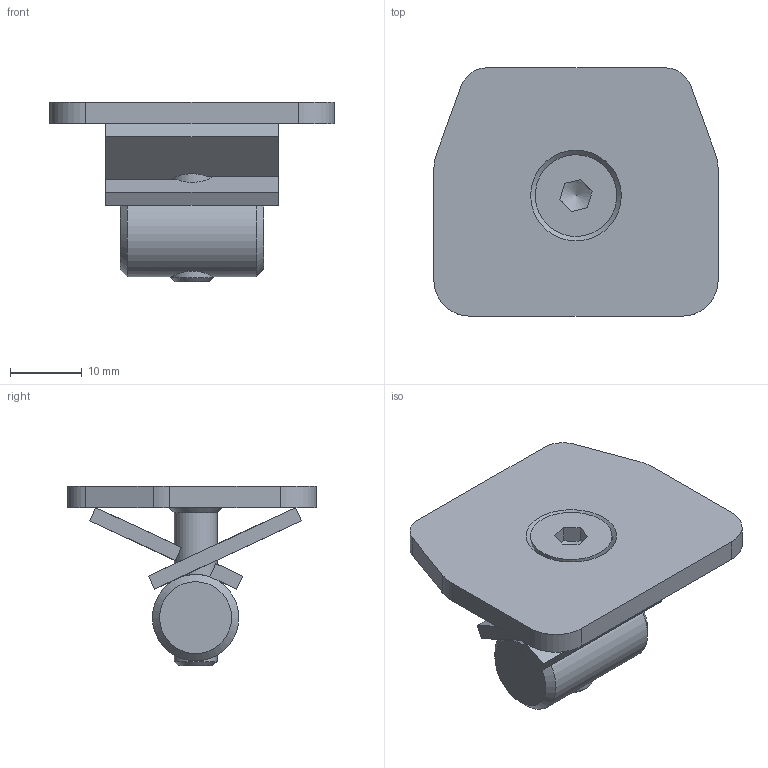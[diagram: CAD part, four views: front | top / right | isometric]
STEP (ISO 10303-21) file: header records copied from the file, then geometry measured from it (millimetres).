
FILE_DESCRIPTION(/* description */ ('Brennteil'),/* implementation_level */ '2;1');
FILE_NAME(/* name */ 'Q:\sge-ma\Produktmanagement-STB\STB\Workspace\TraceParts\Laufrohrabschluss\010337051.stp',/* time_stamp */ '2018-03-05T08:26:12+01:00',/* author */ ('avschreier'),/* organization */ (''),/* preprocessor_version */ 'ST-DEVELOPER v16.1',/* originating_system */ 'Autodesk Inventor 2016',/* authorisation */ '');
FILE_SCHEMA (('CONFIG_CONTROL_DESIGN'));
Length unit declared in the file: millimetre
Products named in the file (5): 337000268; 337000269; 337000265; DIN_EN_ISO_10642-M6x25_en; 010337051
Assembly tree (5 placements, depth 2):
  010337051
    337000268  x2
    337000269
    337000265
    DIN_EN_ISO_10642-M6x25_en
Bounding box: 39.5 x 34.5 x 25 mm (x, y, z)
Volume: 8190.2 mm3; surface area: 7046.6 mm2
Topology: 5 solids, 5 shells, 54 faces, 129 edges, 84 vertices
Faces by surface type: plane 36, cylinder 10, cone 6, bspline 2
Full cylindrical faces by diameter (mm): 6 x2, 11.34 x1, 12 x1
Entity records: 1393 total; most frequent: CARTESIAN_POINT 301, DIRECTION 214, ORIENTED_EDGE 182, EDGE_CURVE 91, AXIS2_PLACEMENT_3D 78, VERTEX_POINT 65, EDGE_LOOP 58, LINE 58
